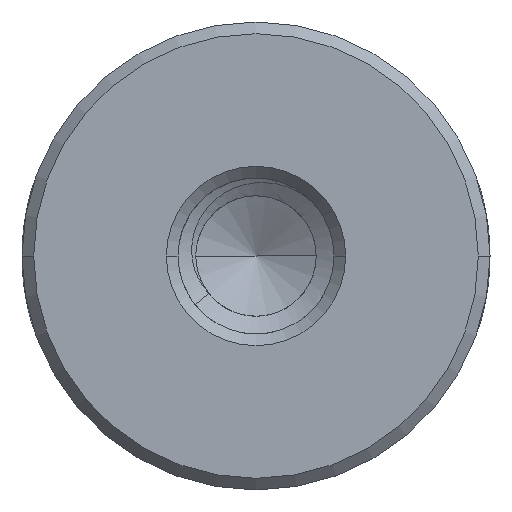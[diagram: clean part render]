
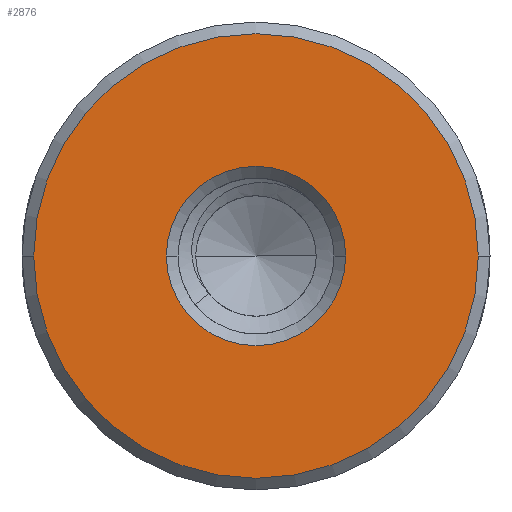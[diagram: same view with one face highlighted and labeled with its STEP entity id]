
A CAD part, front view. The second image highlights one B-rep face of the part: STEP entity #2876.
In plain terms, the highlighted planar face has unit normal (0, -1, 0).
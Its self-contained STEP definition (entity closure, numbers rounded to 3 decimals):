
#1=CARTESIAN_POINT('',(0.,-15.,0.));
#2=DIRECTION('',(0.,-1.,0.));
#3=DIRECTION('',(-1.,0.,0.));
#4=AXIS2_PLACEMENT_3D('',#1,#2,#3);
#6=CARTESIAN_POINT('',(0.,-15.,0.));
#7=DIRECTION('',(0.,-1.,0.));
#8=DIRECTION('',(1.,0.,0.));
#9=AXIS2_PLACEMENT_3D('',#6,#7,#8);
#11=CARTESIAN_POINT('',(0.,-15.,0.));
#12=DIRECTION('',(0.,1.,0.));
#13=DIRECTION('',(-1.,0.,0.));
#14=AXIS2_PLACEMENT_3D('',#11,#12,#13);
#16=CARTESIAN_POINT('',(0.,-15.,0.));
#17=DIRECTION('',(0.,1.,0.));
#18=DIRECTION('',(1.,0.,0.));
#19=AXIS2_PLACEMENT_3D('',#16,#17,#18);
#2703=CARTESIAN_POINT('',(-5.7,-15.,0.));
#2704=CARTESIAN_POINT('',(5.7,-15.,0.));
#2705=VERTEX_POINT('',#2703);
#2706=VERTEX_POINT('',#2704);
#2851=CARTESIAN_POINT('',(-2.3,-15.,0.));
#2852=CARTESIAN_POINT('',(2.3,-15.,0.));
#2853=VERTEX_POINT('',#2851);
#2854=VERTEX_POINT('',#2852);
#2859=CARTESIAN_POINT('',(0.,-15.,0.));
#2860=DIRECTION('',(0.,1.,0.));
#2861=DIRECTION('',(1.,0.,0.));
#2862=AXIS2_PLACEMENT_3D('',#2859,#2860,#2861);
#2863=PLANE('',#2862);
#2865=ORIENTED_EDGE('',*,*,#2864,.F.);
#2867=ORIENTED_EDGE('',*,*,#2866,.F.);
#2868=EDGE_LOOP('',(#2865,#2867));
#2869=FACE_OUTER_BOUND('',#2868,.F.);
#2871=ORIENTED_EDGE('',*,*,#2870,.F.);
#2873=ORIENTED_EDGE('',*,*,#2872,.F.);
#2874=EDGE_LOOP('',(#2871,#2873));
#2875=FACE_BOUND('',#2874,.F.);
#2876=ADVANCED_FACE('',(#2869,#2875),#2863,.F.);
#5=CIRCLE('',#4,5.7);
#10=CIRCLE('',#9,5.7);
#15=CIRCLE('',#14,2.3);
#20=CIRCLE('',#19,2.3);
#2864=EDGE_CURVE('',#2705,#2706,#5,.T.);
#2866=EDGE_CURVE('',#2706,#2705,#10,.T.);
#2870=EDGE_CURVE('',#2853,#2854,#15,.T.);
#2872=EDGE_CURVE('',#2854,#2853,#20,.T.);
